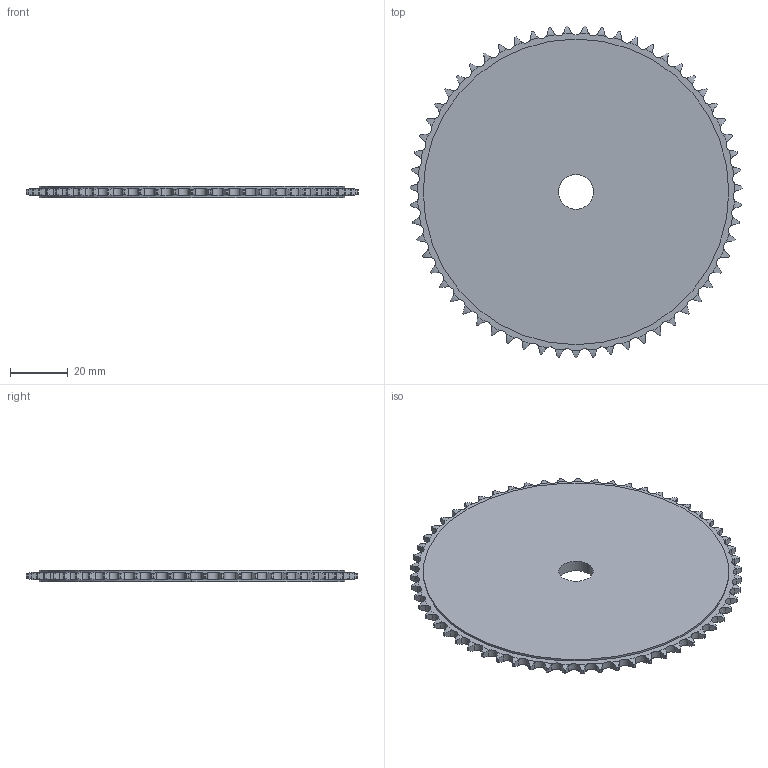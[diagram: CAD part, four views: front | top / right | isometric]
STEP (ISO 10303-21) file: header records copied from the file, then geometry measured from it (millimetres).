
FILE_DESCRIPTION((''),'2;1');
FILE_NAME('500-061-0059_PRT','2021-02-12T',('Brieden'),('Brieden'),'PRO/ENGINEER BY PARAMETRIC TECHNOLOGY CORPORATION, 2010160','PRO/ENGINEER BY PARAMETRIC TECHNOLOGY CORPORATION, 2010160','');
FILE_SCHEMA(('AUTOMOTIVE_DESIGN { 1 0 10303 214 1 1 1 1 }'));
Length unit declared in the file: millimetre
Products named in the file (1): 500-061-0059_PRT
Bounding box: 114.87 x 114.83 x 4 mm (x, y, z)
Volume: 36905.2 mm3; surface area: 20994.3 mm2
Topology: 1 solids, 1 shells, 364 faces, 1080 edges, 720 vertices
Faces by surface type: cylinder 242, torus 118, plane 4
Entity records: 17042 total; most frequent: CARTESIAN_POINT 4549, ORIENTED_EDGE 2160, DIRECTION 1702, PRESENTATION_STYLE_ASSIGNMENT 1081, STYLED_ITEM 1081, CURVE_STYLE 1080, EDGE_CURVE 1080, AXIS2_PLACEMENT_3D 730
